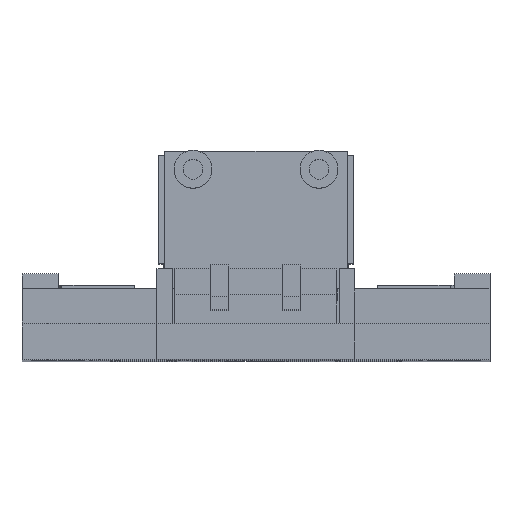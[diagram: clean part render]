
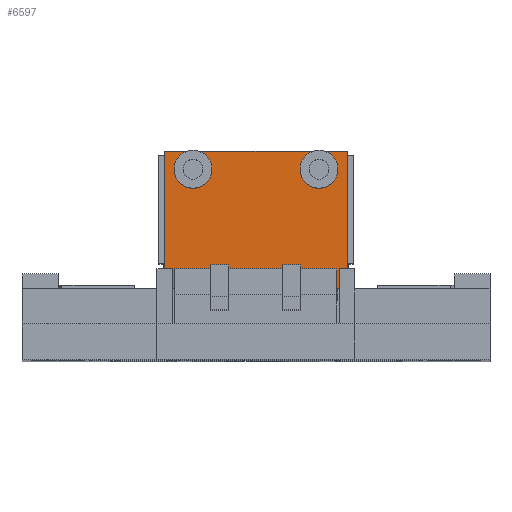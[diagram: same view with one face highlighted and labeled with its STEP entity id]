
A CAD part, top view. The second image highlights one B-rep face of the part: STEP entity #6597.
In plain terms, the highlighted planar face has unit normal (0, 0, 1).
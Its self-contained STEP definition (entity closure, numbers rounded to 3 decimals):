
#5273 = VERTEX_POINT('',#5274);
#5274 = CARTESIAN_POINT('',(-8.942,13.3,127.));
#5280 = EDGE_CURVE('',#5273,#5281,#5283,.T.);
#5281 = VERTEX_POINT('',#5282);
#5282 = CARTESIAN_POINT('',(-10.2,13.3,127.));
#5283 = LINE('',#5284,#5285);
#5284 = CARTESIAN_POINT('',(-18.1,13.3,127.));
#5285 = VECTOR('',#5286,1.);
#5286 = DIRECTION('',(-1.,0.,0.));
#5462 = VERTEX_POINT('',#5463);
#5463 = CARTESIAN_POINT('',(10.2,13.3,127.));
#5469 = EDGE_CURVE('',#5462,#5470,#5472,.T.);
#5470 = VERTEX_POINT('',#5471);
#5471 = CARTESIAN_POINT('',(8.942,13.3,127.));
#5472 = LINE('',#5473,#5474);
#5473 = CARTESIAN_POINT('',(-18.1,13.3,127.));
#5474 = VECTOR('',#5475,1.);
#5475 = DIRECTION('',(-1.,0.,0.));
#5664 = VERTEX_POINT('',#5665);
#5665 = CARTESIAN_POINT('',(-10.2,28.5,127.));
#5671 = EDGE_CURVE('',#5281,#5664,#5672,.T.);
#5672 = LINE('',#5673,#5674);
#5673 = CARTESIAN_POINT('',(-10.2,9.3,127.));
#5674 = VECTOR('',#5675,1.);
#5675 = DIRECTION('',(0.,1.,0.));
#5687 = EDGE_CURVE('',#5664,#5688,#5690,.T.);
#5688 = VERTEX_POINT('',#5689);
#5689 = CARTESIAN_POINT('',(-7.64,28.5,127.));
#5690 = LINE('',#5691,#5692);
#5691 = CARTESIAN_POINT('',(-10.2,28.5,127.));
#5692 = VECTOR('',#5693,1.);
#5693 = DIRECTION('',(1.,0.,0.));
#5696 = VERTEX_POINT('',#5697);
#5697 = CARTESIAN_POINT('',(-6.36,28.5,127.));
#5703 = EDGE_CURVE('',#5696,#5704,#5706,.T.);
#5704 = VERTEX_POINT('',#5705);
#5705 = CARTESIAN_POINT('',(6.36,28.5,127.));
#5706 = LINE('',#5707,#5708);
#5707 = CARTESIAN_POINT('',(-10.2,28.5,127.));
#5708 = VECTOR('',#5709,1.);
#5709 = DIRECTION('',(1.,0.,0.));
#5712 = VERTEX_POINT('',#5713);
#5713 = CARTESIAN_POINT('',(7.64,28.5,127.));
#5719 = EDGE_CURVE('',#5712,#5720,#5722,.T.);
#5720 = VERTEX_POINT('',#5721);
#5721 = CARTESIAN_POINT('',(10.2,28.5,127.));
#5722 = LINE('',#5723,#5724);
#5723 = CARTESIAN_POINT('',(-10.2,28.5,127.));
#5724 = VECTOR('',#5725,1.);
#5725 = DIRECTION('',(1.,0.,0.));
#5744 = EDGE_CURVE('',#5462,#5720,#5745,.T.);
#5745 = LINE('',#5746,#5747);
#5746 = CARTESIAN_POINT('',(10.2,9.3,127.));
#5747 = VECTOR('',#5748,1.);
#5748 = DIRECTION('',(0.,1.,0.));
#6518 = VERTEX_POINT('',#6519);
#6519 = CARTESIAN_POINT('',(-5.058,13.3,127.));
#6525 = EDGE_CURVE('',#6518,#5273,#6526,.T.);
#6526 = CIRCLE('',#6527,2.1);
#6527 = AXIS2_PLACEMENT_3D('',#6528,#6529,#6530);
#6528 = CARTESIAN_POINT('',(-7.,12.5,127.));
#6529 = DIRECTION('',(0.,0.,1.));
#6530 = DIRECTION('',(1.,0.,0.));
#6545 = VERTEX_POINT('',#6546);
#6546 = CARTESIAN_POINT('',(5.058,13.3,127.));
#6552 = EDGE_CURVE('',#6545,#6518,#6553,.T.);
#6553 = LINE('',#6554,#6555);
#6554 = CARTESIAN_POINT('',(-18.1,13.3,127.));
#6555 = VECTOR('',#6556,1.);
#6556 = DIRECTION('',(-1.,0.,0.));
#6584 = EDGE_CURVE('',#5470,#6545,#6585,.T.);
#6585 = CIRCLE('',#6586,2.1);
#6586 = AXIS2_PLACEMENT_3D('',#6587,#6588,#6589);
#6587 = CARTESIAN_POINT('',(7.,12.5,127.));
#6588 = DIRECTION('',(0.,0.,1.));
#6589 = DIRECTION('',(1.,0.,0.));
#6597 = ADVANCED_FACE('',(#6598),#6642,.T.);
#6598 = FACE_BOUND('',#6599,.T.);
#6599 = EDGE_LOOP('',(#6600,#6601,#6602,#6603,#6604,#6605,#6606,#6607,
    #6608,#6609,#6618,#6625,#6626,#6635));
#6600 = ORIENTED_EDGE('',*,*,#5687,.F.);
#6601 = ORIENTED_EDGE('',*,*,#5671,.F.);
#6602 = ORIENTED_EDGE('',*,*,#5280,.F.);
#6603 = ORIENTED_EDGE('',*,*,#6525,.F.);
#6604 = ORIENTED_EDGE('',*,*,#6552,.F.);
#6605 = ORIENTED_EDGE('',*,*,#6584,.F.);
#6606 = ORIENTED_EDGE('',*,*,#5469,.F.);
#6607 = ORIENTED_EDGE('',*,*,#5744,.T.);
#6608 = ORIENTED_EDGE('',*,*,#5719,.F.);
#6609 = ORIENTED_EDGE('',*,*,#6610,.F.);
#6610 = EDGE_CURVE('',#6611,#5712,#6613,.T.);
#6611 = VERTEX_POINT('',#6612);
#6612 = CARTESIAN_POINT('',(9.1,26.5,127.));
#6613 = CIRCLE('',#6614,2.1);
#6614 = AXIS2_PLACEMENT_3D('',#6615,#6616,#6617);
#6615 = CARTESIAN_POINT('',(7.,26.5,127.));
#6616 = DIRECTION('',(0.,0.,1.));
#6617 = DIRECTION('',(1.,0.,0.));
#6618 = ORIENTED_EDGE('',*,*,#6619,.F.);
#6619 = EDGE_CURVE('',#5704,#6611,#6620,.T.);
#6620 = CIRCLE('',#6621,2.1);
#6621 = AXIS2_PLACEMENT_3D('',#6622,#6623,#6624);
#6622 = CARTESIAN_POINT('',(7.,26.5,127.));
#6623 = DIRECTION('',(0.,0.,1.));
#6624 = DIRECTION('',(1.,0.,0.));
#6625 = ORIENTED_EDGE('',*,*,#5703,.F.);
#6626 = ORIENTED_EDGE('',*,*,#6627,.F.);
#6627 = EDGE_CURVE('',#6628,#5696,#6630,.T.);
#6628 = VERTEX_POINT('',#6629);
#6629 = CARTESIAN_POINT('',(-4.9,26.5,127.));
#6630 = CIRCLE('',#6631,2.1);
#6631 = AXIS2_PLACEMENT_3D('',#6632,#6633,#6634);
#6632 = CARTESIAN_POINT('',(-7.,26.5,127.));
#6633 = DIRECTION('',(0.,0.,1.));
#6634 = DIRECTION('',(1.,0.,0.));
#6635 = ORIENTED_EDGE('',*,*,#6636,.F.);
#6636 = EDGE_CURVE('',#5688,#6628,#6637,.T.);
#6637 = CIRCLE('',#6638,2.1);
#6638 = AXIS2_PLACEMENT_3D('',#6639,#6640,#6641);
#6639 = CARTESIAN_POINT('',(-7.,26.5,127.));
#6640 = DIRECTION('',(0.,0.,1.));
#6641 = DIRECTION('',(1.,0.,0.));
#6642 = PLANE('',#6643);
#6643 = AXIS2_PLACEMENT_3D('',#6644,#6645,#6646);
#6644 = CARTESIAN_POINT('',(-10.2,9.3,127.));
#6645 = DIRECTION('',(0.,0.,1.));
#6646 = DIRECTION('',(1.,0.,0.));
